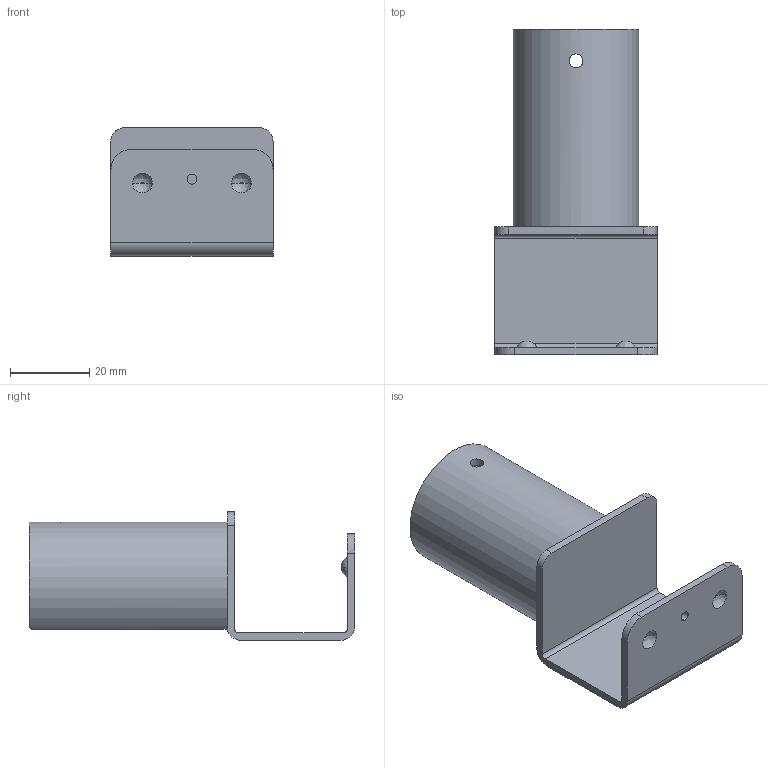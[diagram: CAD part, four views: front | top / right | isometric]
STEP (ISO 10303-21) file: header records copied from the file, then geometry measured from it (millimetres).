
FILE_DESCRIPTION((''),'2;1');
FILE_NAME('FH-2028A','2021-06-01T08:18:33',('Administrator'),(''),'CREO PARAMETRIC BY PTC INC, 2019224','CREO PARAMETRIC BY PTC INC, 2019224','');
FILE_SCHEMA(('CONFIG_CONTROL_DESIGN'));
Length unit declared in the file: millimetre
Products named in the file (1): FH-2028A
Bounding box: 41 x 82.3 x 32.5 mm (x, y, z)
Volume: 13286 mm3; surface area: 14770.3 mm2
Topology: 1 solids, 1 shells, 44 faces, 110 edges, 72 vertices
Faces by surface type: plane 20, cylinder 16, bspline 8
Entity records: 1634 total; most frequent: CARTESIAN_POINT 539, ORIENTED_EDGE 220, DIRECTION 218, EDGE_CURVE 110, AXIS2_PLACEMENT_3D 83, VERTEX_POINT 72, VECTOR 52, LINE 52
